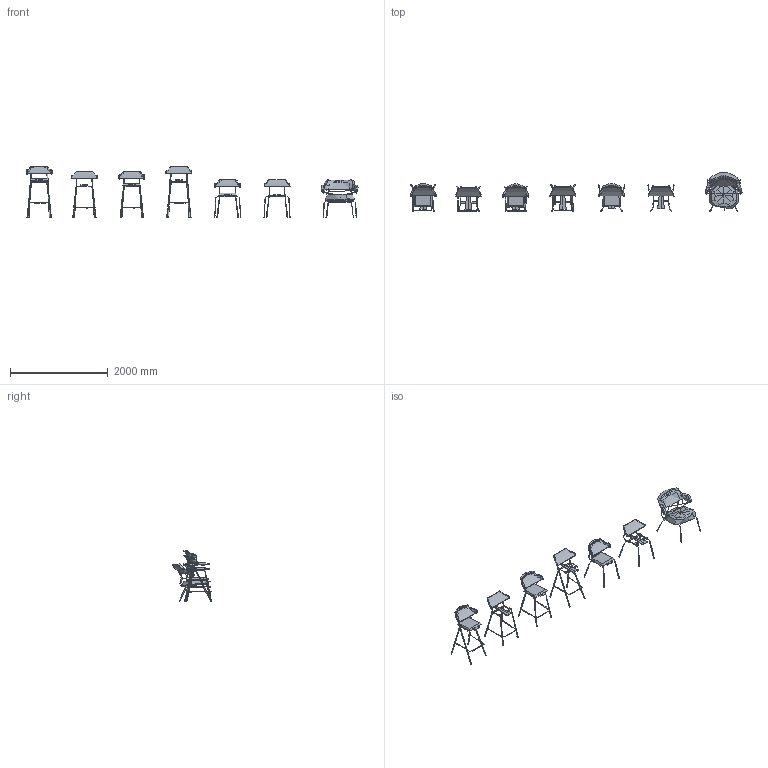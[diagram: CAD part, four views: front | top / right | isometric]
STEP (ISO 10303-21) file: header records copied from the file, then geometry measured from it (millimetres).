
FILE_DESCRIPTION(/* description */ (''),/* implementation_level */ '2;1');
FILE_NAME(/* name */ '221124 Adatto Range',/* time_stamp */ '2022-11-24T13:11:29+00:00',/* author */ (''),/* organization */ (''),/* preprocessor_version */ 'ST-DEVELOPER v16.5',/* originating_system */ 'Rhino 7.22',/* authorisation */ '');
FILE_SCHEMA (('CONFIG_CONTROL_DESIGN'));
Products named in the file (1): Document
Bounding box: 6782.15 x 796.69 x 1038.69 mm (x, y, z)
Volume: 109378027.3 mm3; surface area: 8786850.2 mm2
Topology: 130 solids, 146 shells, 2752 faces, 6101 edges, 3750 vertices
Faces by surface type: bspline 1334, plane 1146, cylinder 272
Entity records: 241083 total; most frequent: CARTESIAN_POINT 202281, ORIENTED_EDGE 11828, EDGE_CURVE 5966, B_SPLINE_CURVE_WITH_KNOTS 3870, VERTEX_POINT 3503, EDGE_LOOP 2833, ADVANCED_FACE 2752, FACE_OUTER_BOUND 2752
